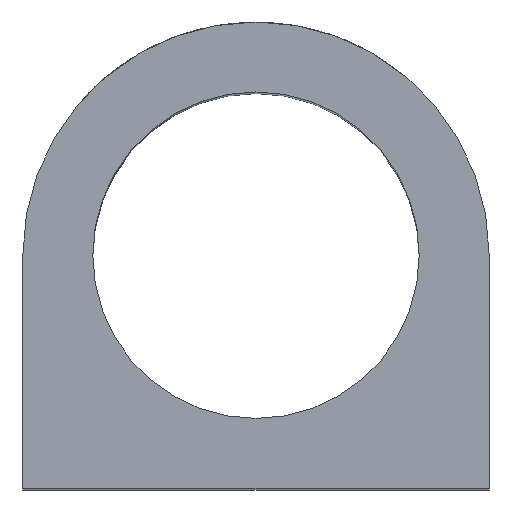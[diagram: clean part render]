
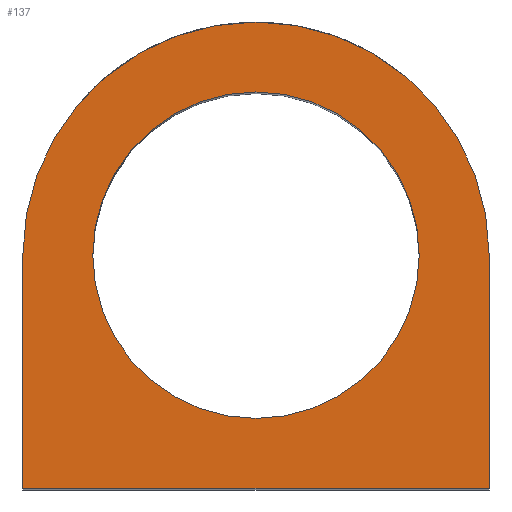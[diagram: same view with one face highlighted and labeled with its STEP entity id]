
A CAD part, top view. The second image highlights one B-rep face of the part: STEP entity #137.
In plain terms, the highlighted planar face has unit normal (0, 0, 1).
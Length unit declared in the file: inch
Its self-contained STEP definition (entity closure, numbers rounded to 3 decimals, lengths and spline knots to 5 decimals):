
#16=FACE_BOUND('',#42,.T.);
#20=CIRCLE('',#164,0.25);
#21=CIRCLE('',#167,0.175);
#32=FACE_OUTER_BOUND('',#41,.T.);
#41=EDGE_LOOP('',(#116,#117,#118,#119));
#42=EDGE_LOOP('',(#120));
#47=LINE('',#216,#58);
#51=LINE('',#225,#62);
#54=LINE('',#229,#65);
#58=VECTOR('',#177,0.3937);
#62=VECTOR('',#183,0.3937);
#65=VECTOR('',#188,0.3937);
#69=VERTEX_POINT('',#213);
#70=VERTEX_POINT('',#215);
#73=VERTEX_POINT('',#222);
#74=VERTEX_POINT('',#224);
#76=VERTEX_POINT('',#312);
#80=EDGE_CURVE('',#70,#69,#47,.T.);
#84=EDGE_CURVE('',#74,#73,#51,.T.);
#87=EDGE_CURVE('',#73,#70,#54,.T.);
#89=EDGE_CURVE('',#69,#74,#20,.T.);
#91=EDGE_CURVE('',#76,#76,#21,.T.);
#116=ORIENTED_EDGE('',*,*,#89,.T.);
#117=ORIENTED_EDGE('',*,*,#84,.T.);
#118=ORIENTED_EDGE('',*,*,#87,.T.);
#119=ORIENTED_EDGE('',*,*,#80,.T.);
#120=ORIENTED_EDGE('',*,*,#91,.T.);
#129=PLANE('',#169);
#137=ADVANCED_FACE('',(#32,#16),#129,.T.);
#164=AXIS2_PLACEMENT_3D('',#232,#193,#194);
#167=AXIS2_PLACEMENT_3D('',#313,#199,#200);
#169=AXIS2_PLACEMENT_3D('',#317,#204,#205);
#177=DIRECTION('',(0.,1.,0.));
#183=DIRECTION('',(0.,-1.,0.));
#188=DIRECTION('',(1.,0.,0.));
#193=DIRECTION('center_axis',(0.,0.,1.));
#194=DIRECTION('ref_axis',(1.,0.,0.));
#199=DIRECTION('center_axis',(0.,0.,-1.));
#200=DIRECTION('ref_axis',(-1.,0.,0.));
#204=DIRECTION('center_axis',(0.,0.,1.));
#205=DIRECTION('ref_axis',(1.,0.,0.));
#213=CARTESIAN_POINT('',(0.25,0.,1.));
#215=CARTESIAN_POINT('',(0.25,-0.25,1.));
#216=CARTESIAN_POINT('',(0.25,-0.25,1.));
#222=CARTESIAN_POINT('',(-0.25,-0.25,1.));
#224=CARTESIAN_POINT('',(-0.25,0.,1.));
#225=CARTESIAN_POINT('',(-0.25,0.,1.));
#229=CARTESIAN_POINT('',(-0.25,-0.25,1.));
#232=CARTESIAN_POINT('Origin',(0.,0.,1.));
#312=CARTESIAN_POINT('',(0.175,0.,1.));
#313=CARTESIAN_POINT('Origin',(0.,0.,1.));
#317=CARTESIAN_POINT('Origin',(0.,0.,1.));
